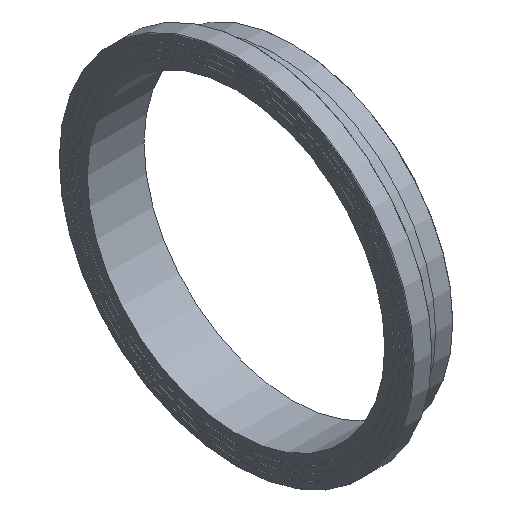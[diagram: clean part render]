
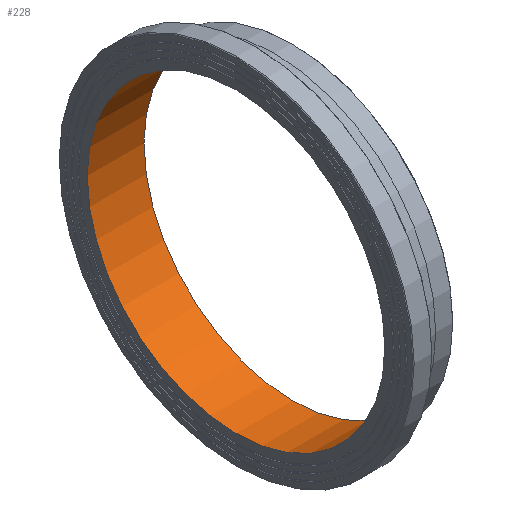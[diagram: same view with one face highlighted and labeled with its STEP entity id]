
A CAD part, isometric view. The second image highlights one B-rep face of the part: STEP entity #228.
In plain terms, the highlighted cylindrical face has radius 327.8 mm (diameter 655.6 mm), a full revolution.
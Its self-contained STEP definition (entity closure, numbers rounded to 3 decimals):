
#33=CYLINDRICAL_SURFACE('',#274,327.8);
#50=ORIENTED_EDGE('',*,*,#79,.F.);
#51=ORIENTED_EDGE('',*,*,#76,.T.);
#76=EDGE_CURVE('',#96,#96,#116,.T.);
#79=EDGE_CURVE('',#99,#99,#119,.T.);
#96=VERTEX_POINT('',#383);
#99=VERTEX_POINT('',#390);
#116=CIRCLE('',#257,327.8);
#119=CIRCLE('',#261,327.8);
#150=EDGE_LOOP('',(#50));
#151=EDGE_LOOP('',(#51));
#190=FACE_BOUND('',#150,.T.);
#191=FACE_BOUND('',#151,.T.);
#228=ADVANCED_FACE('',(#190,#191),#33,.F.);
#257=AXIS2_PLACEMENT_3D('',#382,#303,#304);
#261=AXIS2_PLACEMENT_3D('',#389,#311,#312);
#274=AXIS2_PLACEMENT_3D('',#410,#337,#338);
#303=DIRECTION('',(-1.,0.,0.));
#304=DIRECTION('',(0.,0.,1.));
#311=DIRECTION('',(-1.,0.,0.));
#312=DIRECTION('',(0.,0.,1.));
#337=DIRECTION('',(-1.,0.,0.));
#338=DIRECTION('',(0.,0.,1.));
#382=CARTESIAN_POINT('',(0.,0.,0.));
#383=CARTESIAN_POINT('',(0.,0.,327.8));
#389=CARTESIAN_POINT('',(125.,0.,0.));
#390=CARTESIAN_POINT('',(125.,0.,327.8));
#410=CARTESIAN_POINT('',(60.,0.,0.));
